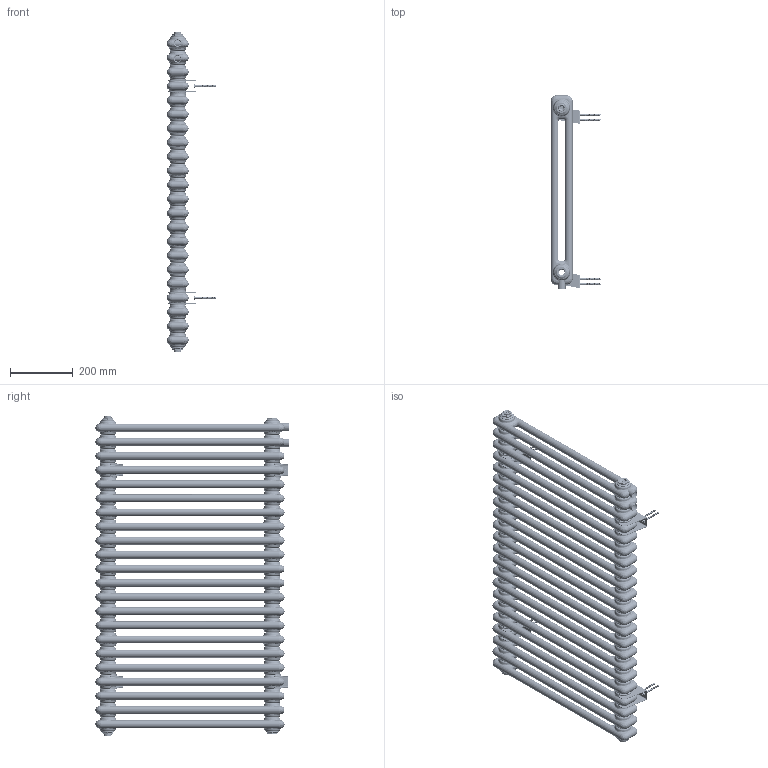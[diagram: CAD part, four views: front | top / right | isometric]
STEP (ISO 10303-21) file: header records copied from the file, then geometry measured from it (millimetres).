
FILE_DESCRIPTION(/* description */ (''),/* implementation_level */ '2;1');
FILE_NAME(/* name */ 'CL02 600x1010 D50',/* time_stamp */ '2023-09-09T11:08:03+08:00',/* author */ (''),/* organization */ (''),/* preprocessor_version */ 'ST-DEVELOPER v9',/* originating_system */ 'UGS - NX 4.0',/* authorisation */ '');
FILE_SCHEMA (('CONFIG_CONTROL_DESIGN'));
Length unit declared in the file: millimetre
Products named in the file (1): AdmiF21Fozbd
Bounding box: 161.6 x 616 x 1022 mm (x, y, z)
Volume: 3162602.9 mm3; surface area: 4177094.6 mm2
Topology: 43 solids, 43 shells, 6293 faces, 15123 edges, 8889 vertices
Faces by surface type: bspline 1939, plane 1308, torus 1252, cylinder 1239, cone 555
Full cylindrical faces by diameter (mm): 19 x2, 25 x2
Entity records: 399598 total; most frequent: CARTESIAN_POINT 266322, ORIENTED_EDGE 30210, DIRECTION 25297, EDGE_CURVE 15105, AXIS2_PLACEMENT_3D 10909, VERTEX_POINT 8891, CIRCLE 6554, EDGE_LOOP 6536
